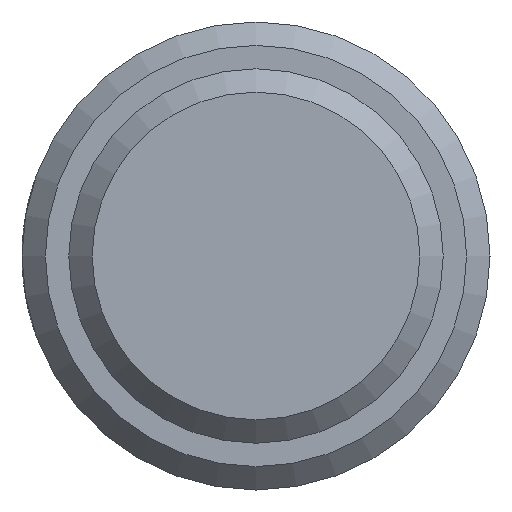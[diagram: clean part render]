
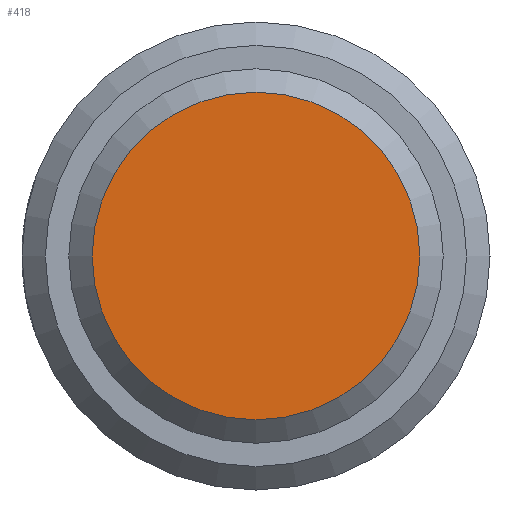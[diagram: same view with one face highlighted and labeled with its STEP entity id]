
A CAD part, left-side view. The second image highlights one B-rep face of the part: STEP entity #418.
In plain terms, the highlighted planar face has unit normal (-1, 0, 0).
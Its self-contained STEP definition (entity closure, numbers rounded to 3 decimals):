
#31=PLANE('',#489);
#115=FACE_OUTER_BOUND('',#144,.T.);
#144=EDGE_LOOP('',(#357));
#178=CIRCLE('',#488,7.);
#216=VERTEX_POINT('',#809);
#268=EDGE_CURVE('',#216,#216,#178,.T.);
#357=ORIENTED_EDGE('',*,*,#268,.F.);
#418=ADVANCED_FACE('',(#115),#31,.T.);
#488=AXIS2_PLACEMENT_3D('',#811,#591,#592);
#489=AXIS2_PLACEMENT_3D('',#812,#593,#594);
#591=DIRECTION('center_axis',(1.,0.,0.));
#592=DIRECTION('ref_axis',(0.,-1.,0.));
#593=DIRECTION('center_axis',(-1.,0.,0.));
#594=DIRECTION('ref_axis',(0.,0.,1.));
#809=CARTESIAN_POINT('',(0.,7.,0.));
#811=CARTESIAN_POINT('Origin',(0.,0.,0.));
#812=CARTESIAN_POINT('Origin',(0.,4.,0.));
